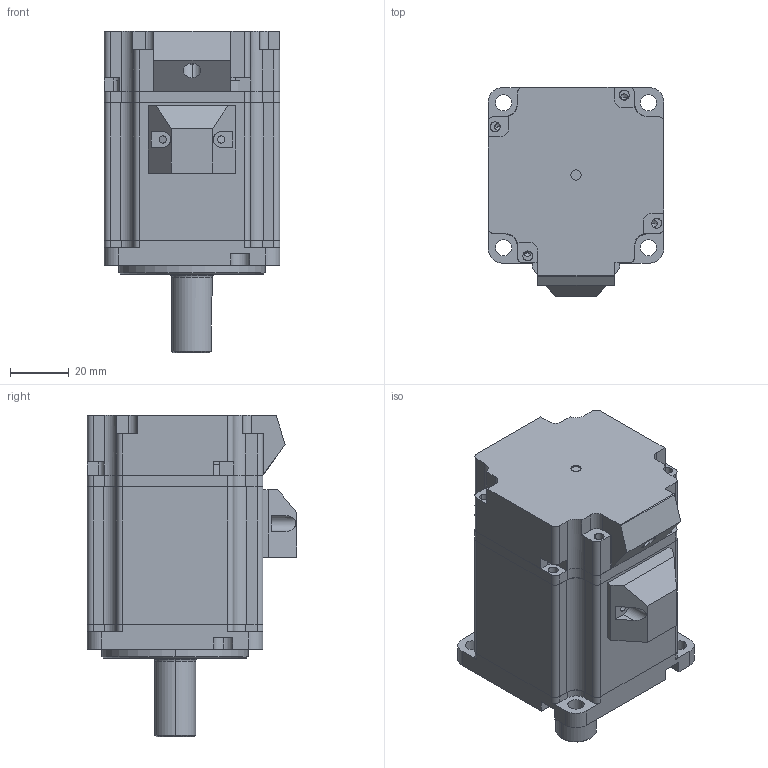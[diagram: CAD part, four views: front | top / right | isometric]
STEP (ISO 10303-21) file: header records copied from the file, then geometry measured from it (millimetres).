
FILE_DESCRIPTION (( 'STEP AP203' ), '1' );
FILE_NAME ('RSNA-M06J0630A .STEP', '2023-07-18T01:50:50', ( '' ), ( '' ), 'SwSTEP 2.0', 'SolidWorks 2020', '' );
FILE_SCHEMA (( 'CONFIG_CONTROL_DESIGN' ));
Length unit declared in the file: millimetre
Products named in the file (11): ____.STEP; S60DG-A-002DY.STEP; 86__________.STEP; 666.STEP; RSNA-M06J0630A ; 6202ZZ____.STEP; 60SF200-K1444-007.STEP; 6000ZZ____.STEP; S60-H47-001.STEP; ____-0.STEP; S60DG-B-004DY.STEP
Assembly tree (10 placements, depth 2):
  RSNA-M06J0630A 
    S60-H47-001.STEP
    6000ZZ____.STEP
    60SF200-K1444-007.STEP
    6202ZZ____.STEP
    666.STEP
    S60DG-A-002DY.STEP
    S60DG-B-004DY.STEP
    ____.STEP
    ____-0.STEP
    86__________.STEP
Bounding box: 60 x 71.55 x 109.9 mm (x, y, z)
Volume: 240085 mm3; surface area: 101550.5 mm2
Topology: 12 solids, 12 shells, 609 faces, 1578 edges, 1009 vertices
Faces by surface type: cylinder 313, plane 221, cone 59, torus 16
Entity records: 20328 total; most frequent: CARTESIAN_POINT 3884, DIRECTION 3348, ORIENTED_EDGE 3092, EDGE_CURVE 1546, AXIS2_PLACEMENT_3D 1277, VERTEX_POINT 1009, LINE 794, VECTOR 794
